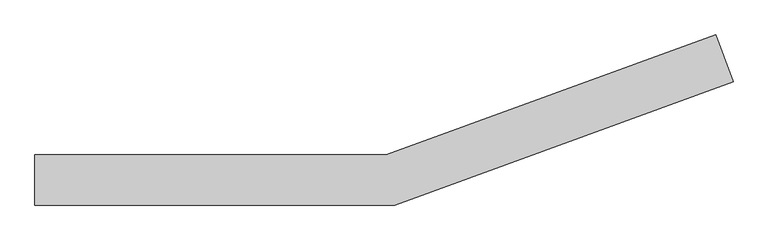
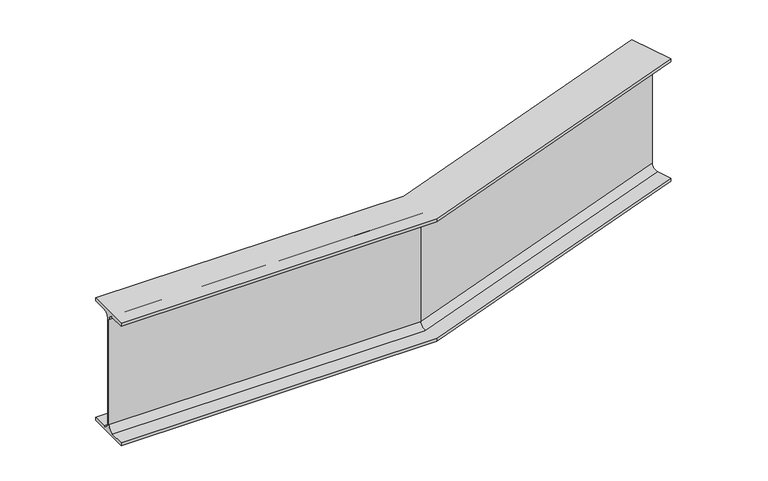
"""IFC4 building model written with IfcOpenShell, lengths in millimetres: beam geometry, Cranked Beam B2 : Cranked Beam B1."""

from ifc_helpers import new_model, si_unit, frame, origin, place, context, project, spatial, polyline, circle_curve, ellipse_curve, source, transform, mapped, element, save
from ifc_brep_helpers import plane_surface, revolved_surface, advanced_brep


def beam_e63ae445(model_context):
    return source(origin(), model_context, "Body", "AdvancedBrep", [
        advanced_brep(
        [(30484.4500022, 15287.0000005, 7156.0), (30484.4500022, 15338.3000005, 7156.0), (30484.4500022, 15359.4000005, 7177.1), (30484.4500022, 15359.4000005, 7562.9), (30484.4500022, 15338.3000005, 7584.0), (30484.4500022, 15287.0000005, 7584.0), (30484.4500022, 15287.0000005, 7594.9), (30484.4500022, 15439.4000005, 7594.9), (30484.4500022, 15439.4000005, 7584.0), (30484.4500022, 15388.1000005, 7584.0), (30484.4500022, 15367.0000005, 7562.9), (30484.4500022, 15367.0000005, 7177.1), (30484.4500022, 15388.1000005, 7156.0), (30484.4500022, 15439.4000005, 7156.0), (30484.4500022, 15439.4000005, 7145.1), (30484.4500022, 15287.0000005, 7145.1), (31580.7314082, 15287.0000005, 7156.0), (32610.8989551, 15661.9503238, 7156.0), (32593.3533217, 15710.1565552, 7156.0), (31571.6858341, 15338.3000005, 7156.0), (31567.9653348, 15359.4000005, 7177.1), (31567.9653348, 15359.4000005, 7562.9), (31571.6858341, 15338.3000005, 7584.0), (32593.3533217, 15710.1565552, 7584.0), (32610.8989551, 15661.9503238, 7584.0), (31580.7314082, 15287.0000005, 7584.0), (31580.7314082, 15287.0000005, 7594.9), (32610.8989551, 15661.9503238, 7594.9), (32558.7750852, 15805.1594792, 7594.9), (31553.8591764, 15439.4000005, 7594.9), (31553.8591764, 15439.4000005, 7584.0), (32558.7750852, 15805.1594792, 7584.0), (32576.3207186, 15756.9532478, 7584.0), (31562.9047505, 15388.1000005, 7584.0), (31566.6252498, 15367.0000005, 7562.9), (31566.6252498, 15367.0000005, 7177.1), (31562.9047505, 15388.1000005, 7156.0), (32576.3207186, 15756.9532478, 7156.0), (32558.7750852, 15805.1594792, 7156.0), (31553.8591764, 15439.4000005, 7156.0), (31553.8591764, 15439.4000005, 7145.1), (32558.7750852, 15805.1594792, 7145.1), (32610.8989551, 15661.9503238, 7145.1), (31580.7314082, 15287.0000005, 7145.1), (32583.5373436, 15737.1257335, 7177.1), (32583.5373436, 15737.1257335, 7562.9), (32586.1366967, 15729.9840695, 7562.9), (32586.1366967, 15729.9840695, 7177.1)],
        [
            (0, 1),
            (1, 2, circle_curve(frame((30484.4500022, 15338.3000005, 7177.1), z_axis=(1.0, 0.0, 0.0), x_axis=(0.0, 1.0, 0.0)), 21.1)),
            (2, 3),
            (3, 4, circle_curve(frame((30484.4500022, 15338.3000005, 7562.9), z_axis=(1.0, 0.0, 0.0), x_axis=(0.0, 1.0, 0.0)), 21.1)),
            (4, 5),
            (5, 6),
            (6, 7),
            (7, 8),
            (8, 9),
            (9, 10, circle_curve(frame((30484.4500022, 15388.1000005, 7562.9), z_axis=(1.0, 0.0, 0.0), x_axis=(0.0, 1.0, 0.0)), 21.1)),
            (10, 11),
            (11, 12, circle_curve(frame((30484.4500022, 15388.1000005, 7177.1), z_axis=(1.0, 0.0, 0.0), x_axis=(0.0, 1.0, 0.0)), 21.1)),
            (12, 13),
            (13, 14),
            (14, 15),
            (15, 0),
            (0, 16),
            (16, 17),
            (17, 18),
            (18, 19),
            (19, 1),
            (19, 20, ellipse_curve(frame((31571.6858341, 15338.3000005, 7177.1), z_axis=(0.9848077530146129, 0.17364817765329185, 0.0), x_axis=(0.17364817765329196, -0.984807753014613, 0.0)), 21.4255015, 21.1)),
            (20, 2),
            (20, 21),
            (21, 3),
            (21, 22, ellipse_curve(frame((31571.6858341, 15338.3000005, 7562.9), z_axis=(0.9848077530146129, 0.17364817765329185, 0.0), x_axis=(0.17364817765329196, -0.984807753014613, 0.0)), 21.4255015, 21.1)),
            (22, 4),
            (22, 23),
            (23, 24),
            (24, 25),
            (25, 5),
            (25, 26),
            (26, 6),
            (26, 27),
            (27, 28),
            (28, 29),
            (29, 7),
            (29, 30),
            (30, 8),
            (30, 31),
            (31, 32),
            (32, 33),
            (33, 9),
            (33, 34, ellipse_curve(frame((31562.9047505, 15388.1000005, 7562.9), z_axis=(0.9848077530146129, 0.17364817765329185, 0.0), x_axis=(0.17364817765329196, -0.984807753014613, 0.0)), 21.4255015, 21.1)),
            (34, 10),
            (34, 35),
            (35, 11),
            (35, 36, ellipse_curve(frame((31562.9047505, 15388.1000005, 7177.1), z_axis=(0.9848077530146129, 0.17364817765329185, 0.0), x_axis=(0.17364817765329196, -0.984807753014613, 0.0)), 21.4255015, 21.1)),
            (36, 12),
            (36, 37),
            (37, 38),
            (38, 39),
            (39, 13),
            (39, 40),
            (40, 14),
            (40, 41),
            (41, 42),
            (42, 43),
            (43, 15),
            (43, 16),
            (17, 42),
            (41, 38),
            (37, 44, circle_curve(frame((32576.3207186, 15756.9532478, 7177.1), z_axis=(-0.9396926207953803, -0.34202014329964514, 0.0), x_axis=(-0.34202014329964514, 0.9396926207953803, 0.0)), 21.1)),
            (44, 45),
            (45, 32, circle_curve(frame((32576.3207186, 15756.9532478, 7562.9), z_axis=(-0.9396926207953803, -0.34202014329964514, 0.0), x_axis=(-0.34202014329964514, 0.9396926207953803, 0.0)), 21.1)),
            (31, 28),
            (27, 24),
            (23, 46, circle_curve(frame((32593.3533217, 15710.1565552, 7562.9), z_axis=(-0.9396926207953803, -0.34202014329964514, 0.0), x_axis=(-0.34202014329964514, 0.9396926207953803, 0.0)), 21.1)),
            (46, 47),
            (47, 18, circle_curve(frame((32593.3533217, 15710.1565552, 7177.1), z_axis=(-0.9396926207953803, -0.34202014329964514, 0.0), x_axis=(-0.34202014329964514, 0.9396926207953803, 0.0)), 21.1)),
            (47, 20),
            (46, 21),
            (45, 34),
            (44, 35),
        ],
        [
            plane_surface(frame((30484.4500022, 15363.2000005, 7595.0), z_axis=(-1.0, 0.0, 0.0), x_axis=(0.0, 0.0, 1.0))),
            plane_surface(frame((30484.4500022, 15287.0000005, 7156.0), z_axis=(0.0, 0.0, 1.0), x_axis=(1.0, 0.0, 0.0))),
            revolved_surface(polyline([(31575.406333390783, 15359.4000005, 7177.1), (30484.4500022, 15359.4000005, 7177.1)]), (30484.4500022, 15338.3000005, 7177.1), (1.0, 0.0, 0.0)),
            plane_surface(frame((30484.4500022, 15359.4000005, 7177.1), z_axis=(0.0, -1.0, 0.0), x_axis=(1.0, 0.0, 0.0))),
            revolved_surface(polyline([(31575.406333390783, 15359.4000005, 7562.9), (30484.4500022, 15359.4000005, 7562.9)]), (30484.4500022, 15338.3000005, 7562.9), (1.0, 0.0, 0.0)),
            plane_surface(frame((30484.4500022, 15338.3000005, 7584.0), z_axis=(0.0, 0.0, -1.0), x_axis=(1.0, 0.0, 0.0))),
            plane_surface(frame((30484.4500022, 15287.0000005, 7584.0), z_axis=(0.0, -1.0, 0.0), x_axis=(1.0, 0.0, 0.0))),
            plane_surface(frame((30484.4500022, 15287.0000005, 7594.9), z_axis=(0.0, 0.0, 1.0), x_axis=(1.0, 0.0, 0.0))),
            plane_surface(frame((30484.4500022, 15439.4000005, 7594.9), z_axis=(0.0, 1.0, 0.0), x_axis=(1.0, 0.0, 0.0))),
            plane_surface(frame((30484.4500022, 15439.4000005, 7584.0), z_axis=(0.0, 0.0, -1.0), x_axis=(1.0, 0.0, 0.0))),
            revolved_surface(polyline([(31566.6252498, 15409.2000005, 7562.9), (30484.4500022, 15409.2000005, 7562.9)]), (30484.4500022, 15388.1000005, 7562.9), (1.0, 0.0, 0.0)),
            plane_surface(frame((30484.4500022, 15367.0000005, 7562.9), z_axis=(0.0, 1.0, 0.0), x_axis=(1.0, 0.0, 0.0))),
            revolved_surface(polyline([(31566.6252498, 15409.2000005, 7177.1), (30484.4500022, 15409.2000005, 7177.1)]), (30484.4500022, 15388.1000005, 7177.1), (1.0, 0.0, 0.0)),
            plane_surface(frame((30484.4500022, 15388.1000005, 7156.0), z_axis=(0.0, 0.0, 1.0), x_axis=(1.0, 0.0, 0.0))),
            plane_surface(frame((30484.4500022, 15439.4000005, 7156.0), z_axis=(0.0, 1.0, 0.0), x_axis=(1.0, 0.0, 0.0))),
            plane_surface(frame((30484.4500022, 15439.4000005, 7145.1), z_axis=(0.0, 0.0, -1.0), x_axis=(1.0, 0.0, 0.0))),
            plane_surface(frame((30484.4500022, 15287.0000005, 7145.1), z_axis=(0.0, -1.0, 0.0), x_axis=(1.0, 0.0, 0.0))),
            plane_surface(frame((32584.8370201, 15733.5549015, 7595.0), z_axis=(0.9396926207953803, 0.34202014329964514, 0.0), x_axis=(0.0, 0.0, 1.0))),
            revolved_surface(polyline([(32586.136696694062, 15729.98406951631, 7177.1), (31560.973083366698, 15356.855029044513, 7177.1)]), (31575.8115939, 15339.8016542, 7177.1), (0.9396926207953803, 0.34202014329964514, 0.0)),
            plane_surface(frame((31567.9653348, 15359.4000005, 7177.1), z_axis=(0.34202014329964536, -0.9396926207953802, 0.0), x_axis=(0.9396926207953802, 0.34202014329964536, 0.0))),
            revolved_surface(polyline([(32586.136696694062, 15729.98406951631, 7562.9), (31560.973083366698, 15356.855029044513, 7562.9)]), (31575.8115939, 15339.8016542, 7562.9), (0.9396926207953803, 0.34202014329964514, 0.0)),
            plane_surface(frame((31580.7314082, 15287.0000005, 7584.0), z_axis=(0.3420201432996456, -0.9396926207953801, 0.0), x_axis=(0.9396926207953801, 0.3420201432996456, 0.0))),
            plane_surface(frame((31553.8591764, 15439.4000005, 7594.9), z_axis=(-0.34202014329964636, 0.9396926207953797, 0.0), x_axis=(0.9396926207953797, 0.34202014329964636, 0.0))),
            revolved_surface(polyline([(32569.104093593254, 15776.780762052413, 7562.9), (31552.191999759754, 15406.655029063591, 7562.9)]), (31558.7789907, 15386.5983467, 7562.9), (0.9396926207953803, 0.34202014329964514, 0.0)),
            plane_surface(frame((31566.6252498, 15367.0000005, 7562.9), z_axis=(-0.3420201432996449, 0.9396926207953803, 0.0), x_axis=(0.9396926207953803, 0.3420201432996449, 0.0))),
            revolved_surface(polyline([(32569.104093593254, 15776.780762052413, 7177.1), (31552.191999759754, 15406.655029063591, 7177.1)]), (31558.7789907, 15386.5983467, 7177.1), (0.9396926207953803, 0.34202014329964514, 0.0)),
            plane_surface(frame((31553.8591764, 15439.4000005, 7156.0), z_axis=(-0.34202014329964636, 0.9396926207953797, 0.0), x_axis=(0.9396926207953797, 0.34202014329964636, 0.0))),
            plane_surface(frame((31580.7314082, 15287.0000005, 7145.1), z_axis=(0.3420201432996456, -0.9396926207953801, 0.0), x_axis=(0.9396926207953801, 0.3420201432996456, 0.0))),
        ],
        [
            (0, [[1, 2, 3, 4, 5, 6, 7, 8, 9, 10, 11, 12, 13, 14, 15, 16]]),
            (1, [[-1, 17, 18, 19, 20, 21]]),
            (2, [[-2, -21, 22, 23]]),
            (3, [[-3, -23, 24, 25]]),
            (4, [[-4, -25, 26, 27]]),
            (5, [[-5, -27, 28, 29, 30, 31]]),
            (6, [[-6, -31, 32, 33]]),
            (7, [[-7, -33, 34, 35, 36, 37]]),
            (8, [[-8, -37, 38, 39]]),
            (9, [[-9, -39, 40, 41, 42, 43]]),
            (10, [[-10, -43, 44, 45]]),
            (11, [[-11, -45, 46, 47]]),
            (12, [[-12, -47, 48, 49]]),
            (13, [[-13, -49, 50, 51, 52, 53]]),
            (14, [[-14, -53, 54, 55]]),
            (15, [[-15, -55, 56, 57, 58, 59]]),
            (16, [[-16, -59, 60, -17]]),
            (17, [[61, -57, 62, -51, 63, 64, 65, -41, 66, -35, 67, -29, 68, 69, 70, -19]]),
            (18, [[-22, -20, -70, 71]]),
            (19, [[-24, -71, -69, 72]]),
            (20, [[-26, -72, -68, -28]]),
            (21, [[-32, -30, -67, -34]]),
            (22, [[-38, -36, -66, -40]]),
            (23, [[-44, -42, -65, 73]]),
            (24, [[-46, -73, -64, 74]]),
            (25, [[-48, -74, -63, -50]]),
            (26, [[-54, -52, -62, -56]]),
            (27, [[-60, -58, -61, -18]]),
        ],
    ),
    ])


if __name__ == "__main__":
    model = new_model("IFC4")
    model_context = context("Model", 3, world=origin())
    ifc_project = project(units=[si_unit("LENGTHUNIT", "METRE", prefix="MILLI")], contexts=[model_context])
    site = spatial("IfcSite", under=ifc_project)
    building = spatial("IfcBuilding", under=site)
    placement = place(None, origin())
    beam_shape = beam_e63ae445(model_context)
    element("IfcBeam", 1, ObjectType="Cranked Beam B2 : Cranked Beam B1", at=placement, inside=building, context=model_context, shape_type="MappedRepresentation", body=[
        mapped(beam_shape, transform((0.0, 0.0, 0.0), x_axis=(1.0, 0.0, 0.0), y_axis=(0.0, 1.0, 0.0), z_axis=(0.0, 0.0, 1.0))),
    ])
    save(model, "model.ifc")
